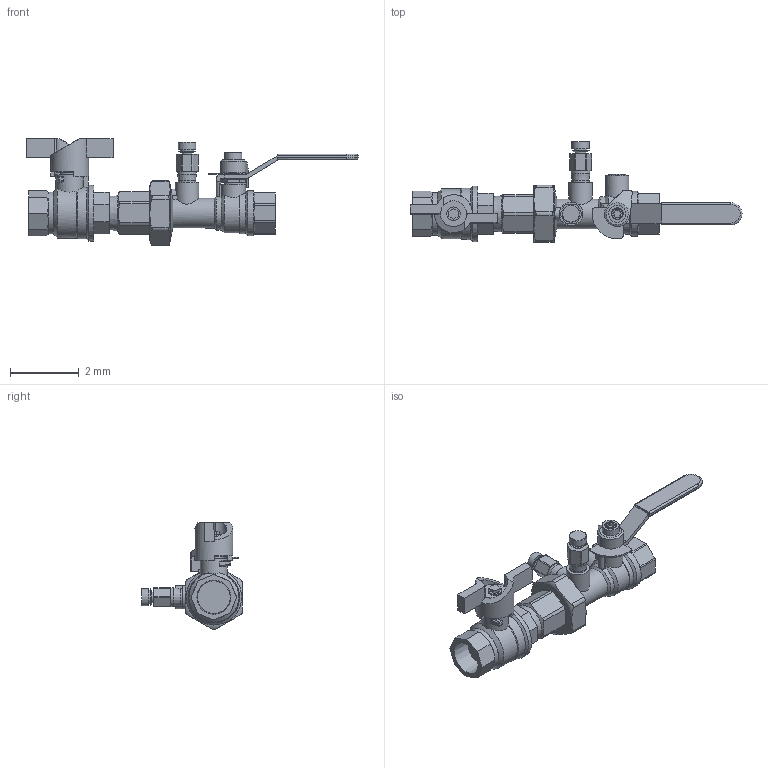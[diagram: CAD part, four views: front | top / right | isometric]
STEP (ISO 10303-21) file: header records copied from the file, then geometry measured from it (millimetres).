
FILE_DESCRIPTION(('Open CASCADE Model'),'2;1');
FILE_NAME('Open CASCADE Shape Model','2021-09-29T15:29:50',('Author'),( 'Open CASCADE'),'Open CASCADE STEP processor 7.3','Open CASCADE 7.3' ,'Unknown');
FILE_SCHEMA(('AUTOMOTIVE_DESIGN { 1 0 10303 214 1 1 1 1 }'));
Length unit declared in the file: millimetre
Products named in the file (7): Open CASCADE STEP translator 7.3 1; Open CASCADE STEP translator 7.3 1.1; Open CASCADE STEP translator 7.3 1.2; Open CASCADE STEP translator 7.3 1.2.1; Open CASCADE STEP translator 7.3 1.2.2; Open CASCADE STEP translator 7.3 1.2.3; Open CASCADE STEP translator 7.3 1.2.4
Assembly tree (6 placements, depth 3):
  Open CASCADE STEP translator 7.3 1
    Open CASCADE STEP translator 7.3 1.1
    Open CASCADE STEP translator 7.3 1.2
      Open CASCADE STEP translator 7.3 1.2.1
      Open CASCADE STEP translator 7.3 1.2.2
      Open CASCADE STEP translator 7.3 1.2.3
      Open CASCADE STEP translator 7.3 1.2.4
Bounding box: 9.69 x 2.94 x 3.12 mm (x, y, z)
Volume: 10.3 mm3; surface area: 87.2 mm2
Topology: 2 solids, 12 shells, 561 faces, 1465 edges, 955 vertices
Faces by surface type: plane 313, cylinder 148, cone 87, torus 9, sphere 2, bspline 2
Full cylindrical faces by diameter (mm): 0.15 x1, 0.175 x1, 0.2 x1, 0.205 x1, 0.255 x1, 0.3 x1, 0.312 x2, 0.345 x2, 0.385 x2, 0.4 x1, 0.405 x2, 0.5 x2, 0.505 x2, 0.545 x3, 0.55 x1, 0.578 x1, 0.585 x1, 0.595 x1, 0.66 x2, 0.679 x1, 0.685 x2, 0.765 x1, 0.77 x2, 0.791 x3, 0.811 x1, 0.863 x1, 0.865 x1, 1.11 x1, 1.195 x1, 1.24 x1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
Entity records: 45069 total; most frequent: CARTESIAN_POINT 16917, DIRECTION 5055, ORIENTED_EDGE 2918, PCURVE 2918, DEFINITIONAL_REPRESENTATION 2918, LINE 2766, VECTOR 2766, EDGE_CURVE 1464
